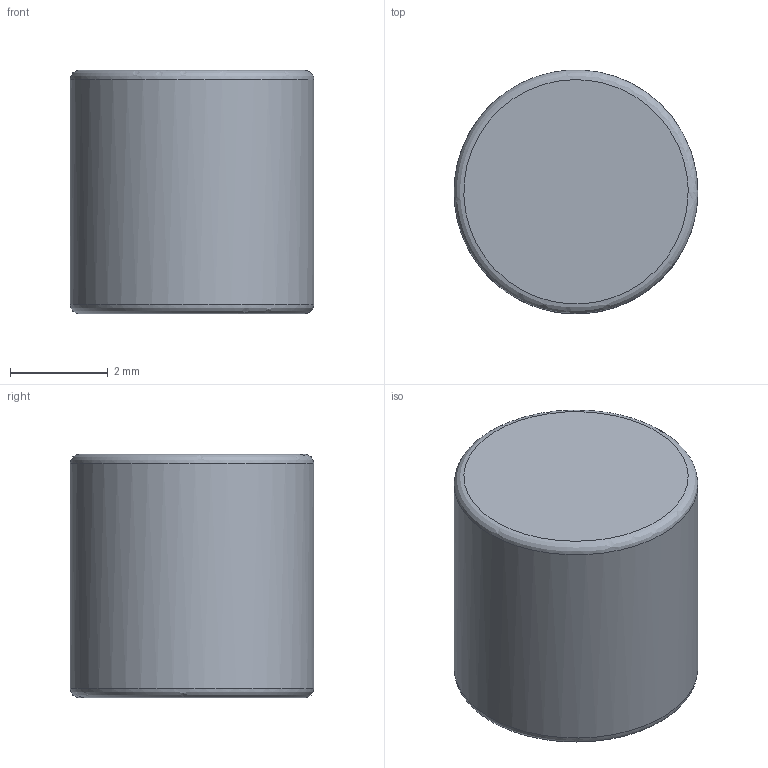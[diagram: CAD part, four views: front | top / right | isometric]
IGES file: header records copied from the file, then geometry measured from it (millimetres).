
Global section: file name: Magnete Ø5x5,; native system: Autodesk Inventor 2014; preprocessor: unknown; author: APto; date: 20150519.085310; units: millimetre
Bounding box: 5 x 5 x 5 mm (x, y, z)
Volume: 98.1 mm3; surface area: 115.2 mm2
Topology: 1 solids, 1 shells, 5 faces, 7 edges, 4 vertices
Faces by surface type: bspline 5
